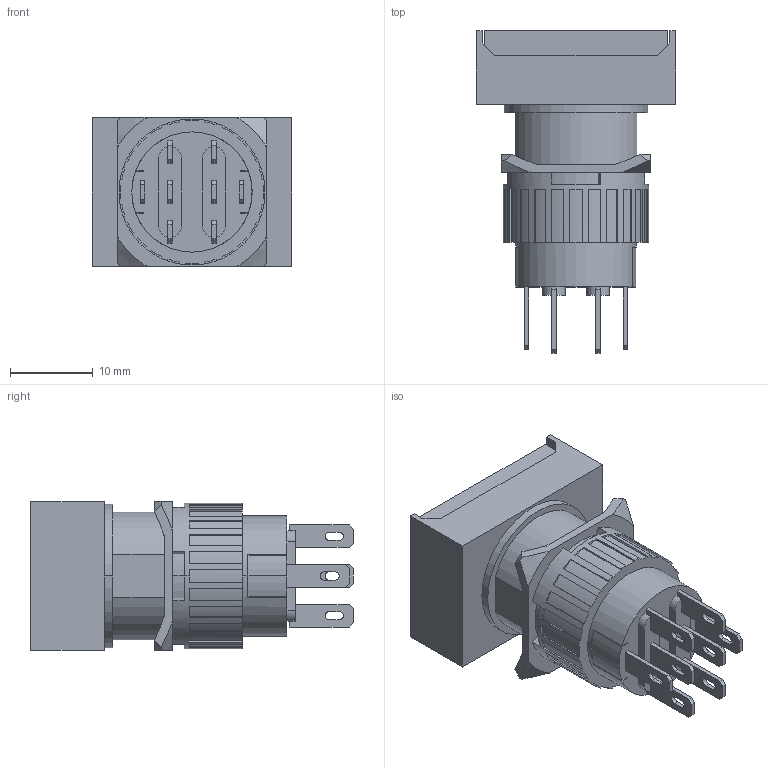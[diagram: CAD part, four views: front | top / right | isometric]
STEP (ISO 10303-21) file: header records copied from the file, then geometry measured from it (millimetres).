
FILE_DESCRIPTION (( 'STEP AP203' ), '1' );
FILE_NAME ('P16-BL.STEP', '2018-02-15T15:21:14', ( '' ), ( '' ), 'SwSTEP 2.0', 'SolidWorks 2012', '' );
FILE_SCHEMA (( 'CONFIG_CONTROL_DESIGN' ));
Length unit declared in the file: millimetre
Products named in the file (1): P16-BL
Bounding box: 24 x 38.9 x 18 mm (x, y, z)
Volume: 8275.1 mm3; surface area: 4580.1 mm2
Topology: 1 solids, 1 shells, 303 faces, 859 edges, 570 vertices
Faces by surface type: plane 218, cylinder 73, cone 12
Entity records: 9964 total; most frequent: CARTESIAN_POINT 1805, ORIENTED_EDGE 1718, DIRECTION 1665, EDGE_CURVE 859, LINE 613, VECTOR 613, VERTEX_POINT 570, AXIS2_PLACEMENT_3D 526
